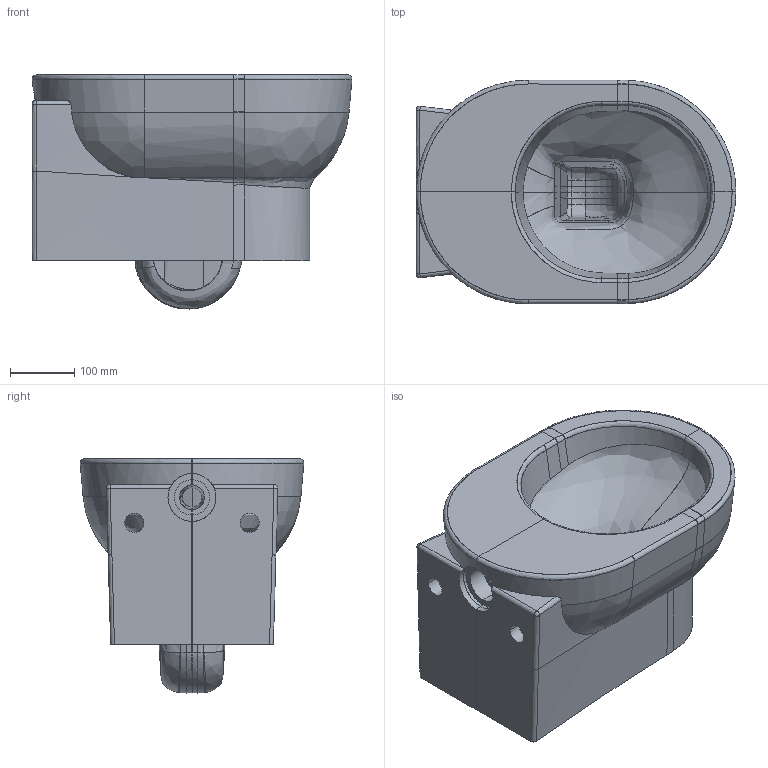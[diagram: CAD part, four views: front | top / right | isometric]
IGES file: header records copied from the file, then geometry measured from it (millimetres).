
Start section: START RECORD GO HERE.
Global section: file name: 5218_VASO SOSP M2 50.igs; native system: DASSAULT SYSTEMES CATIA V5 R19 - www.3ds.com; preprocessor: CATIA Version 5 Release 19 SP 5 ; author: gioge; organization: LAPTOP-G94B6G74; date: 20200630.115852; units: millimetre
Bounding box: 499.44 x 349.16 x 365.31 mm (x, y, z)
Surface area: 874023.3 mm2 (no closed solid volume)
Topology: 0 solids, 0 shells, 304 faces, 2361 edges, 2352 vertices
Faces by surface type: bspline 262, plane 34, revolution 8
